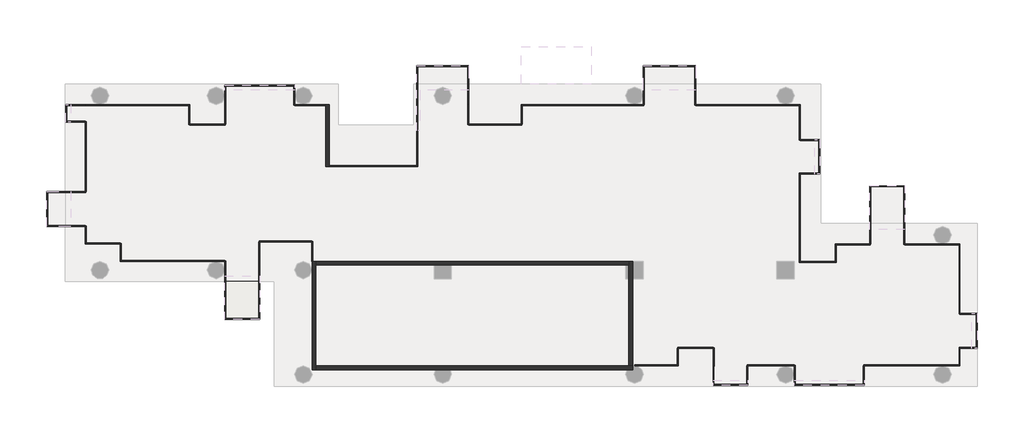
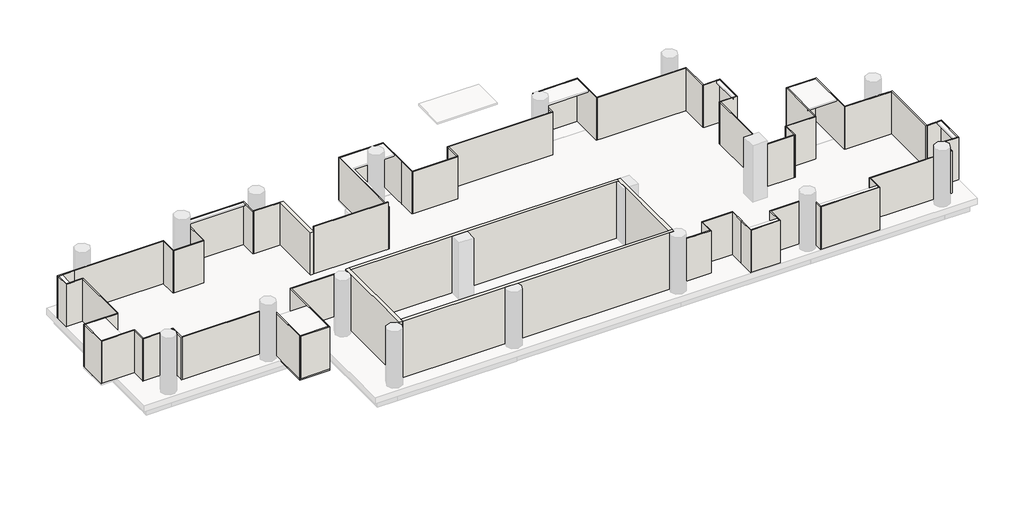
# One storey, part 1 of 2: 69 walls, 1 slab.
"""IFC4 building model written with IfcOpenShell, lengths in millimetres."""

from ifc_helpers import new_model, si_unit, frame, origin, place, context, project, spatial, polyline, outline, extrude, faceted_brep, element, save

model = new_model("IFC4")

# Units and contexts
model_context = context("Model", 3, world=origin())
ifc_project = project(units=[si_unit("LENGTHUNIT", "METRE", prefix="MILLI")], contexts=[model_context])

# Site, building, storey
site = spatial("IfcSite", under=ifc_project)
building = spatial("IfcBuilding", under=site)
storey = spatial("IfcBuildingStorey", under=building, Name="TW-L 17", Elevation=60399.9999686)

# Slab
placement = place(None, origin())
element("IfcSlab", 1, ObjectType="AJN-ARC-SLAB-10cm", at=placement, inside=storey, context=model_context, shape_type="SweptSolid", body=[
    extrude(outline(polyline([(110347.1743518, 27750.0), (108547.1743518, 27750.0), (108547.1743518, 29700.0), (110347.1743518, 29700.0), (110347.1743518, 27750.0)])), frame((0.0, 0.0, 60299.9999686), z_axis=(0.0, 0.0, 1.0), x_axis=(1.0, 0.0, 0.0)), (0.0, 0.0, 1.0), 100.0),
])

# Walls
element("IfcWall", 2, ObjectType="AJN-ARC-CONCRETE WALL-20cm", at=placement, inside=storey, context=model_context, shape_type="Brep", body=[
    faceted_brep([(113050.0, 30750.0, 63999.9999686), (113050.0, 30750.0, 60399.9999686), (113050.0, 25150.0, 60399.9999686), (113050.0, 25150.0, 63999.9999686), (113250.0, 30750.0, 60399.9999686), (113250.0, 30750.0, 63999.9999686), (113250.0, 30550.0, 63999.9999686), (113250.0, 25350.0, 63999.9999686), (113250.0, 25150.0, 63999.9999686), (113250.0, 25150.0, 60399.9999686), (113250.0, 25350.0, 60399.9999686), (113250.0, 30550.0, 60399.9999686), (113097.1743518, 30750.0, 60399.9999686)], [[[0, 1, 2, 3]], [[4, 5, 6, 7, 8, 9, 10, 11]], [[2, 1, 12, 4, 11, 10, 9]], [[0, 3, 8, 7, 6, 5]], [[3, 2, 9, 8]], [[0, 5, 4, 12, 1]]]),
])
element("IfcWall", 3, ObjectType="AJN-ARC-CONCRETE WALL-20cm", at=placement, inside=storey, context=model_context, shape_type="Brep", body=[
    faceted_brep([(113250.0, 25150.0, 60399.9999686), (119425.8342613, 25150.0, 60399.9999686), (120174.1657387, 25150.0, 60399.9999686), (129325.8342613, 25150.0, 60399.9999686), (129600.0, 25150.0, 60399.9999686), (129600.0, 25150.0, 63999.9999686), (129325.8342613, 25150.0, 63999.9999686), (120174.1657387, 25150.0, 63999.9999686), (119425.8342613, 25150.0, 63999.9999686), (113250.0, 25150.0, 63999.9999686), (113250.0, 25350.0, 60399.9999686), (113250.0, 25350.0, 63999.9999686), (129400.0, 25350.0, 63999.9999686), (129600.0, 25350.0, 63999.9999686), (129600.0, 25350.0, 60399.9999686), (129400.0, 25350.0, 60399.9999686), (129600.0, 25338.7482194, 60399.9999686), (129600.0, 25338.7482194, 63999.9999686)], [[[0, 1, 2, 3, 4, 5, 6, 7, 8, 9]], [[10, 11, 12, 13, 14, 15]], [[4, 3, 2, 1, 0, 10, 15, 14, 16]], [[9, 8, 7, 6, 5, 17, 13, 12, 11]], [[5, 4, 16, 14, 13, 17]], [[0, 9, 11, 10]]]),
])
element("IfcWall", 4, ObjectType="AJN-ARC-CONCRETE WALL-20cm", at=placement, inside=storey, context=model_context, shape_type="Brep", body=[
    faceted_brep([(129600.0, 25350.0, 60399.9999686), (129600.0, 29850.0, 60399.9999686), (129600.0, 30750.0, 60399.9999686), (129600.0, 30750.0, 63999.9999686), (129600.0, 29850.0, 63999.9999686), (129600.0, 25350.0, 63999.9999686), (129400.0, 25350.0, 60399.9999686), (129400.0, 25350.0, 63999.9999686), (129400.0, 29850.0, 63999.9999686), (129400.0, 30550.0, 63999.9999686), (129400.0, 30750.0, 63999.9999686), (129400.0, 30750.0, 60399.9999686), (129400.0, 30550.0, 60399.9999686), (129400.0, 29850.0, 60399.9999686)], [[[0, 1, 2, 3, 4, 5]], [[6, 7, 8, 9, 10, 11, 12, 13]], [[2, 1, 0, 6, 13, 12, 11]], [[5, 4, 3, 10, 9, 8, 7]], [[3, 2, 11, 10]], [[0, 5, 7, 6]]]),
])
element("IfcWall", 5, ObjectType="AJN-ARC-CONCRETE WALL-20cm", at=placement, inside=storey, context=model_context, shape_type="Brep", body=[
    faceted_brep([(129400.0, 30750.0, 60399.9999686), (113250.0, 30750.0, 60399.9999686), (113250.0, 30750.0, 63999.9999686), (129400.0, 30750.0, 63999.9999686), (129400.0, 30550.0, 60399.9999686), (129400.0, 30550.0, 63999.9999686), (129250.0, 30550.0, 63999.9999686), (120250.0, 30550.0, 63999.9999686), (119350.0, 30550.0, 63999.9999686), (113250.0, 30550.0, 63999.9999686), (113250.0, 30550.0, 60399.9999686), (119350.0, 30550.0, 60399.9999686), (120250.0, 30550.0, 60399.9999686), (129250.0, 30550.0, 60399.9999686)], [[[0, 1, 2, 3]], [[4, 5, 6, 7, 8, 9, 10, 11, 12, 13]], [[1, 0, 4, 13, 12, 11, 10]], [[3, 2, 9, 8, 7, 6, 5]], [[0, 3, 5, 4]], [[1, 10, 9, 2]]]),
])
element("IfcWall", 6, ObjectType="AJN-ARC-CONCRETE WALL-20cm", at=placement, inside=storey, context=model_context, shape_type="Brep", body=[
    faceted_brep([(113950.0, 35650.0, 60399.9999686), (113950.0, 38850.001152, 60399.9999686), (113950.0, 38850.001152, 63099.9999686), (113950.0, 35650.0, 63099.9999686), (113750.0, 35650.0, 60399.9999686), (113750.0, 35650.0, 63099.9999686), (113750.0, 38800.001024, 63099.9999686), (113750.0, 38850.001024, 63099.9999686), (113750.0, 38850.001024, 60399.9999686), (113750.0, 38800.001024, 60399.9999686)], [[[0, 1, 2, 3]], [[4, 5, 6, 7, 8, 9]], [[1, 0, 4, 9, 8]], [[3, 2, 7, 6, 5]], [[0, 3, 5, 4]], [[2, 1, 8, 7]]]),
])
element("IfcWall", 7, ObjectType="AJN-ARC-GLASS-50mm", at=placement, inside=storey, context=model_context, shape_type="SweptSolid", body=[
    extrude(outline(polyline([(112150.0, 38850.0), (113750.0, 38850.001024), (113750.0, 38800.001024), (112150.000032, 38800.0), (112150.0, 38850.0)])), frame((0.0, 0.0, 60399.9999686), z_axis=(0.0, 0.0, 1.0), x_axis=(1.0, 0.0, 0.0)), (0.0, 0.0, 1.0), 2700.0),
])
element("IfcWall", 8, ObjectType="AJN-ARC-GLASS-50mm", at=placement, inside=storey, context=model_context, shape_type="Brep", body=[
    faceted_brep([(112150.0, 38824.999984, 60399.9999686), (112150.0, 39850.0, 60399.9999686), (112150.0, 39850.0, 63099.9999686), (112150.0, 38824.999984, 63099.9999686), (112100.0, 38824.999984, 60399.9999686), (112100.0, 38824.999984, 63099.9999686), (112100.0, 39800.0, 63099.9999686), (112100.0, 39850.0, 63099.9999686), (112100.0, 39850.0, 60399.9999686), (112100.0, 39800.0, 60399.9999686)], [[[0, 1, 2, 3]], [[4, 5, 6, 7, 8, 9]], [[1, 0, 4, 9, 8]], [[3, 2, 7, 6, 5]], [[0, 3, 5, 4]], [[2, 1, 8, 7]]]),
])
element("IfcWall", 9, ObjectType="AJN-ARC-GLASS-50mm", at=placement, inside=storey, context=model_context, shape_type="Brep", body=[
    faceted_brep([(112100.0, 39850.0, 60399.9999686), (108550.0, 39850.0, 60399.9999686), (108550.0, 39850.0, 63099.9999686), (112100.0, 39850.0, 63099.9999686), (112100.0, 39800.0, 60399.9999686), (112100.0, 39800.0, 63099.9999686), (108600.0, 39800.0, 63099.9999686), (108550.0, 39800.0, 63099.9999686), (108550.0, 39800.0, 60399.9999686), (108600.0, 39800.0, 60399.9999686)], [[[0, 1, 2, 3]], [[4, 5, 6, 7, 8, 9]], [[1, 0, 4, 9, 8]], [[3, 2, 7, 6, 5]], [[2, 1, 8, 7]], [[0, 3, 5, 4]]]),
])
element("IfcWall", 10, ObjectType="AJN-ARC-GLASS-50mm", at=placement, inside=storey, context=model_context, shape_type="SweptSolid", body=[
    extrude(outline(polyline([(108550.0, 37850.0), (108550.0, 39800.0), (108600.0, 39800.0), (108600.0, 37850.0), (108550.0, 37850.0)])), frame((0.0, 0.0, 60399.9999686), z_axis=(0.0, 0.0, 1.0), x_axis=(1.0, 0.0, 0.0)), (0.0, 0.0, 1.0), 2700.0),
])
element("IfcWall", 11, ObjectType="AJN-ARC-GLASS-50mm", at=placement, inside=storey, context=model_context, shape_type="SweptSolid", body=[
    extrude(outline(polyline([(106750.0, 37850.0), (108575.0, 37850.0), (108575.0, 37800.0), (106750.0, 37800.0), (106750.0, 37850.0)])), frame((0.0, 0.0, 60399.9999686), z_axis=(0.0, 0.0, 1.0), x_axis=(1.0, 0.0, 0.0)), (0.0, 0.0, 1.0), 2700.0),
])
element("IfcWall", 12, ObjectType="AJN-ARC-GLASS-50mm", at=placement, inside=storey, context=model_context, shape_type="Brep", body=[
    faceted_brep([(106750.0, 37825.0, 60399.9999686), (106750.0, 38850.0001439, 60399.9999686), (106750.0, 38850.0001439, 63099.9999686), (106750.0, 37825.0, 63099.9999686), (106700.0, 37825.0, 60399.9999686), (106700.0, 37825.0, 63099.9999686), (106700.0, 38800.0001533, 63099.9999686), (106700.0, 38850.0001533, 63099.9999686), (106700.0, 38850.0001533, 60399.9999686), (106700.0, 38800.0001533, 60399.9999686)], [[[0, 1, 2, 3]], [[4, 5, 6, 7, 8, 9]], [[1, 0, 4, 9, 8]], [[3, 2, 7, 6, 5]], [[0, 3, 5, 4]], [[2, 1, 8, 7]]]),
])
element("IfcWall", 13, ObjectType="AJN-ARC-GLASS-50mm", at=placement, inside=storey, context=model_context, shape_type="SweptSolid", body=[
    extrude(outline(polyline([(101347.1743542, 38850.001152), (106700.0, 38850.0001533), (106700.0, 38800.0001533), (101347.1743449, 38800.001152), (101347.1743542, 38850.001152)])), frame((0.0, 0.0, 60399.9999686), z_axis=(0.0, 0.0, 1.0), x_axis=(1.0, 0.0, 0.0)), (0.0, 0.0, 1.0), 2700.0),
])
element("IfcWall", 14, ObjectType="AJN-ARC-GLASS-50mm", at=placement, inside=storey, context=model_context, shape_type="Brep", body=[
    faceted_brep([(101347.1743495, 38850.001152, 60399.9999686), (100347.1743518, 38850.001152, 60399.9999686), (100347.1743518, 38850.001152, 63099.9999686), (101347.1743495, 38850.001152, 63099.9999686), (101347.1743495, 38800.001152, 60399.9999686), (101347.1743495, 38800.001152, 63099.9999686), (100397.1743518, 38800.001152, 63099.9999686), (100347.1743518, 38800.001152, 63099.9999686), (100347.1743518, 38800.001152, 60399.9999686), (100397.1743518, 38800.001152, 60399.9999686)], [[[0, 1, 2, 3]], [[4, 5, 6, 7, 8, 9]], [[1, 0, 4, 9, 8]], [[3, 2, 7, 6, 5]], [[0, 3, 5, 4]], [[2, 1, 8, 7]]]),
])
element("IfcWall", 15, ObjectType="AJN-ARC-GLASS-50mm", at=placement, inside=storey, context=model_context, shape_type="Brep", body=[
    faceted_brep([(100347.1743518, 38800.001152, 60399.9999686), (100347.1743518, 37950.001152, 60399.9999686), (100347.1743518, 37950.001152, 63099.9999686), (100347.1743518, 38800.001152, 63099.9999686), (100397.1743518, 38800.001152, 60399.9999686), (100397.1743518, 38800.001152, 63099.9999686), (100397.1743518, 38000.001152, 63099.9999686), (100397.1743518, 37950.001152, 63099.9999686), (100397.1743518, 37950.001152, 60399.9999686), (100397.1743518, 38000.001152, 60399.9999686)], [[[0, 1, 2, 3]], [[4, 5, 6, 7, 8, 9]], [[1, 0, 4, 9, 8]], [[3, 2, 7, 6, 5]], [[2, 1, 8, 7]], [[0, 3, 5, 4]]]),
])
element("IfcWall", 16, ObjectType="AJN-ARC-GLASS-50mm", at=placement, inside=storey, context=model_context, shape_type="SweptSolid", body=[
    extrude(outline(polyline([(101347.1743518, 37950.001152), (100397.1743518, 37950.001152), (100397.1743518, 38000.001152), (101347.1743518, 38000.001152), (101347.1743518, 37950.001152)])), frame((0.0, 0.0, 60399.9999686), z_axis=(0.0, 0.0, 1.0), x_axis=(1.0, 0.0, 0.0)), (0.0, 0.0, 1.0), 2700.0),
])
element("IfcWall", 17, ObjectType="AJN-ARC-GLASS-50mm", at=placement, inside=storey, context=model_context, shape_type="SweptSolid", body=[
    extrude(outline(polyline([(101347.1743518, 34350.0), (101347.1743518, 37975.001152), (101397.1743518, 37975.001152), (101397.1743518, 34350.0), (101347.1743518, 34350.0)])), frame((0.0, 0.0, 60399.9999686), z_axis=(0.0, 0.0, 1.0), x_axis=(1.0, 0.0, 0.0)), (0.0, 0.0, 1.0), 2700.0),
])
element("IfcWall", 18, ObjectType="AJN-ARC-GLASS-50mm", at=placement, inside=storey, context=model_context, shape_type="Brep", body=[
    faceted_brep([(101372.1743518, 34350.0, 60399.9999686), (99347.1743518, 34350.0, 60399.9999686), (99347.1743518, 34350.0, 63099.9999686), (101372.1743518, 34350.0, 63099.9999686), (101372.1743518, 34300.0, 60399.9999686), (101372.1743518, 34300.0, 63099.9999686), (99397.1743518, 34300.0, 63099.9999686), (99347.1743518, 34300.0, 63099.9999686), (99347.1743518, 34300.0, 60399.9999686), (99397.1743518, 34300.0, 60399.9999686)], [[[0, 1, 2, 3]], [[4, 5, 6, 7, 8, 9]], [[1, 0, 4, 9, 8]], [[3, 2, 7, 6, 5]], [[0, 3, 5, 4]], [[2, 1, 8, 7]]]),
])
element("IfcWall", 19, ObjectType="AJN-ARC-GLASS-50mm", at=placement, inside=storey, context=model_context, shape_type="Brep", body=[
    faceted_brep([(99347.1743518, 34300.0, 60399.9999686), (99347.1743518, 32550.0, 60399.9999686), (99347.1743518, 32550.0, 63099.9999686), (99347.1743518, 34300.0, 63099.9999686), (99397.1743518, 34300.0, 60399.9999686), (99397.1743518, 34300.0, 63099.9999686), (99397.1743518, 32600.0, 63099.9999686), (99397.1743518, 32550.0, 63099.9999686), (99397.1743518, 32550.0, 60399.9999686), (99397.1743518, 32600.0, 60399.9999686)], [[[0, 1, 2, 3]], [[4, 5, 6, 7, 8, 9]], [[1, 0, 4, 9, 8]], [[3, 2, 7, 6, 5]], [[2, 1, 8, 7]], [[0, 3, 5, 4]]]),
])
element("IfcWall", 20, ObjectType="AJN-ARC-GLASS-50mm", at=placement, inside=storey, context=model_context, shape_type="SweptSolid", body=[
    extrude(outline(polyline([(101347.1743518, 32550.0), (99397.1743518, 32550.0), (99397.1743518, 32600.0), (101347.1743518, 32600.0), (101347.1743518, 32550.0)])), frame((0.0, 0.0, 60399.9999686), z_axis=(0.0, 0.0, 1.0), x_axis=(1.0, 0.0, 0.0)), (0.0, 0.0, 1.0), 2700.0),
])
element("IfcWall", 21, ObjectType="AJN-ARC-GLASS-50mm", at=placement, inside=storey, context=model_context, shape_type="Brep", body=[
    faceted_brep([(101347.1743518, 32575.0, 60399.9999686), (101347.1743518, 31650.6829713, 60399.9999686), (101347.1743518, 31650.6829713, 63099.9999686), (101347.1743518, 32575.0, 63099.9999686), (101397.1743518, 32575.0, 60399.9999686), (101397.1743518, 32575.0, 63099.9999686), (101397.1743518, 31700.6829713, 63099.9999686), (101397.1743518, 31650.6829713, 63099.9999686), (101397.1743518, 31650.6829713, 60399.9999686), (101397.1743518, 31700.6829713, 60399.9999686)], [[[0, 1, 2, 3]], [[4, 5, 6, 7, 8, 9]], [[1, 0, 4, 9, 8]], [[3, 2, 7, 6, 5]], [[0, 3, 5, 4]], [[2, 1, 8, 7]]]),
])
element("IfcWall", 22, ObjectType="AJN-ARC-GLASS-50mm", at=placement, inside=storey, context=model_context, shape_type="SweptSolid", body=[
    extrude(outline(polyline([(103147.5547922, 31650.6829713), (101397.1743518, 31650.6829713), (101397.1743518, 31700.6829713), (103147.5547922, 31700.6829713), (103147.5547922, 31650.6829713)])), frame((0.0, 0.0, 60399.9999686), z_axis=(0.0, 0.0, 1.0), x_axis=(1.0, 0.0, 0.0)), (0.0, 0.0, 1.0), 2700.0),
])
element("IfcWall", 23, ObjectType="AJN-ARC-GLASS-50mm", at=placement, inside=storey, context=model_context, shape_type="Brep", body=[
    faceted_brep([(103147.5547922, 31675.6829713, 60399.9999686), (103147.5547922, 30750.0, 60399.9999686), (103147.5547922, 30750.0, 63099.9999686), (103147.5547922, 31675.6829713, 63099.9999686), (103197.5547922, 31675.6829713, 60399.9999686), (103197.5547922, 31675.6829713, 63099.9999686), (103197.5547922, 30800.0, 63099.9999686), (103197.5547922, 30750.0, 63099.9999686), (103197.5547922, 30750.0, 60399.9999686), (103197.5547922, 30800.0, 60399.9999686)], [[[0, 1, 2, 3]], [[4, 5, 6, 7, 8, 9]], [[1, 0, 4, 9, 8]], [[3, 2, 7, 6, 5]], [[0, 3, 5, 4]], [[2, 1, 8, 7]]]),
])
element("IfcWall", 24, ObjectType="AJN-ARC-GLASS-50mm", at=placement, inside=storey, context=model_context, shape_type="SweptSolid", body=[
    extrude(outline(polyline([(108547.1743518, 30750.0), (103197.5547922, 30750.0), (103197.5547922, 30800.0), (108547.1743518, 30800.0), (108547.1743518, 30750.0)])), frame((0.0, 0.0, 60399.9999686), z_axis=(0.0, 0.0, 1.0), x_axis=(1.0, 0.0, 0.0)), (0.0, 0.0, 1.0), 2700.0),
])
element("IfcWall", 25, ObjectType="AJN-ARC-GLASS-50mm", at=placement, inside=storey, context=model_context, shape_type="Brep", body=[
    faceted_brep([(108547.1743518, 30775.0, 60399.9999686), (108547.1743518, 30350.3497671, 60399.9999686), (108547.1743518, 30249.6502329, 60399.9999686), (108547.1743518, 27750.0, 60399.9999686), (108547.1743518, 27750.0, 63099.9999686), (108547.1743518, 30249.6502329, 63099.9999686), (108547.1743518, 30350.3497671, 63099.9999686), (108547.1743518, 30775.0, 63099.9999686), (108597.1743518, 30775.0, 60399.9999686), (108597.1743518, 30775.0, 63099.9999686), (108597.1743518, 27800.0, 63099.9999686), (108597.1743518, 27750.0, 63099.9999686), (108597.1743518, 27750.0, 60399.9999686), (108597.1743518, 27800.0, 60399.9999686)], [[[0, 1, 2, 3, 4, 5, 6, 7]], [[8, 9, 10, 11, 12, 13]], [[3, 2, 1, 0, 8, 13, 12]], [[7, 6, 5, 4, 11, 10, 9]], [[0, 7, 9, 8]], [[4, 3, 12, 11]]]),
])
element("IfcWall", 26, ObjectType="AJN-ARC-GLASS-50mm", at=placement, inside=storey, context=model_context, shape_type="Brep", body=[
    faceted_brep([(108597.1743518, 27750.0, 60399.9999686), (110347.1743518, 27750.0, 60399.9999686), (110347.1743518, 27750.0, 63099.9999686), (108597.1743518, 27750.0, 63099.9999686), (108597.1743518, 27800.0, 60399.9999686), (108597.1743518, 27800.0, 63099.9999686), (110297.1743518, 27800.0, 63099.9999686), (110347.1743518, 27800.0, 63099.9999686), (110347.1743518, 27800.0, 60399.9999686), (110297.1743518, 27800.0, 60399.9999686)], [[[0, 1, 2, 3]], [[4, 5, 6, 7, 8, 9]], [[1, 0, 4, 9, 8]], [[3, 2, 7, 6, 5]], [[2, 1, 8, 7]], [[0, 3, 5, 4]]]),
])
element("IfcWall", 27, ObjectType="AJN-ARC-GLASS-50mm", at=placement, inside=storey, context=model_context, shape_type="SweptSolid", body=[
    extrude(outline(polyline([(110347.1743518, 31750.0), (110347.1743518, 27800.0), (110297.1743518, 27800.0), (110297.1743518, 31750.0), (110347.1743518, 31750.0)])), frame((0.0, 0.0, 60399.9999686), z_axis=(0.0, 0.0, 1.0), x_axis=(1.0, 0.0, 0.0)), (0.0, 0.0, 1.0), 2700.0),
])
element("IfcWall", 28, ObjectType="AJN-ARC-GLASS-50mm", at=placement, inside=storey, context=model_context, shape_type="SweptSolid", body=[
    extrude(outline(polyline([(113047.1743518, 31750.0), (110322.1743518, 31750.0), (110322.1743518, 31800.0), (113047.1743518, 31800.0), (113047.1743518, 31750.0)])), frame((0.0, 0.0, 60399.9999686), z_axis=(0.0, 0.0, 1.0), x_axis=(1.0, 0.0, 0.0)), (0.0, 0.0, 1.0), 2700.0),
])
element("IfcWall", 29, ObjectType="AJN-ARC-GLASS-50mm", at=placement, inside=storey, context=model_context, shape_type="Brep", body=[
    faceted_brep([(113047.1743518, 31775.0, 60399.9999686), (113047.1743518, 30750.0, 60399.9999686), (113047.1743518, 30750.0, 63099.9999686), (113047.1743518, 31775.0, 63099.9999686), (113097.1743518, 31775.0, 60399.9999686), (113097.1743518, 31775.0, 63099.9999686), (113097.1743518, 30750.0, 63099.9999686), (113097.1743518, 30750.0, 60399.9999686), (113050.0, 30750.0, 60399.9999686)], [[[0, 1, 2, 3]], [[4, 5, 6, 7]], [[1, 0, 4, 7, 8]], [[3, 2, 6, 5]], [[0, 3, 5, 4]], [[2, 1, 8, 7, 6]]]),
])
element("IfcWall", 30, ObjectType="AJN-ARC-GLASS-50mm", at=placement, inside=storey, context=model_context, shape_type="Brep", body=[
    faceted_brep([(138250.0, 30700.0, 60399.9999686), (138250.0, 30750.0, 60399.9999686), (138250.0, 35250.0, 60399.9999686), (138250.0, 35250.0, 63099.9999686), (138250.0, 30750.0, 63099.9999686), (138250.0, 30700.0, 63099.9999686), (138200.0, 30700.0, 60399.9999686), (138200.0, 30700.0, 63099.9999686), (138200.0, 35250.0, 63099.9999686), (138200.0, 35250.0, 60399.9999686)], [[[0, 1, 2, 3, 4, 5]], [[6, 7, 8, 9]], [[2, 1, 0, 6, 9]], [[5, 4, 3, 8, 7]], [[0, 5, 7, 6]], [[3, 2, 9, 8]]]),
])
element("IfcWall", 31, ObjectType="AJN-ARC-GLASS-50mm", at=placement, inside=storey, context=model_context, shape_type="Brep", body=[
    faceted_brep([(138200.0, 35250.0, 60399.9999686), (138250.0, 35250.0, 60399.9999686), (139250.0, 35250.0, 60399.9999686), (139250.0, 35250.0, 63099.9999686), (138250.0, 35250.0, 63099.9999686), (138200.0, 35250.0, 63099.9999686), (138200.0, 35300.0, 60399.9999686), (138200.0, 35300.0, 63099.9999686), (139200.0, 35300.0, 63099.9999686), (139250.0, 35300.0, 63099.9999686), (139250.0, 35300.0, 60399.9999686), (139200.0, 35300.0, 60399.9999686)], [[[0, 1, 2, 3, 4, 5]], [[6, 7, 8, 9, 10, 11]], [[2, 1, 0, 6, 11, 10]], [[5, 4, 3, 9, 8, 7]], [[3, 2, 10, 9]], [[0, 5, 7, 6]]]),
])
element("IfcWall", 32, ObjectType="AJN-ARC-GLASS-50mm", at=placement, inside=storey, context=model_context, shape_type="Brep", body=[
    faceted_brep([(139250.0, 35300.0, 60399.9999686), (139250.0, 37050.0, 60399.9999686), (139250.0, 37050.0, 63099.9999686), (139250.0, 35300.0, 63099.9999686), (139200.0, 35300.0, 60399.9999686), (139200.0, 35300.0, 63099.9999686), (139200.0, 37000.0, 63099.9999686), (139200.0, 37050.0, 63099.9999686), (139200.0, 37050.0, 60399.9999686), (139200.0, 37000.0, 60399.9999686)], [[[0, 1, 2, 3]], [[4, 5, 6, 7, 8, 9]], [[1, 0, 4, 9, 8]], [[3, 2, 7, 6, 5]], [[2, 1, 8, 7]], [[0, 3, 5, 4]]]),
])
element("IfcWall", 33, ObjectType="AJN-ARC-GLASS-50mm", at=placement, inside=storey, context=model_context, shape_type="SweptSolid", body=[
    extrude(outline(polyline([(138250.0, 37050.0), (139200.0, 37050.0), (139200.0, 37000.0), (138250.0, 37000.0), (138250.0, 37050.0)])), frame((0.0, 0.0, 60399.9999686), z_axis=(0.0, 0.0, 1.0), x_axis=(1.0, 0.0, 0.0)), (0.0, 0.0, 1.0), 2700.0),
])
element("IfcWall", 34, ObjectType="AJN-ARC-GLASS-50mm", at=placement, inside=storey, context=model_context, shape_type="Brep", body=[
    faceted_brep([(138250.0, 37025.0, 60399.9999686), (138250.0, 38850.0, 60399.9999686), (138250.0, 38850.0, 63099.9999686), (138250.0, 37025.0, 63099.9999686), (138200.0, 37025.0, 60399.9999686), (138200.0, 37025.0, 63099.9999686), (138200.0, 38800.0, 63099.9999686), (138200.0, 38850.0, 63099.9999686), (138200.0, 38850.0, 60399.9999686), (138200.0, 38800.0, 60399.9999686)], [[[0, 1, 2, 3]], [[4, 5, 6, 7, 8, 9]], [[1, 0, 4, 9, 8]], [[3, 2, 7, 6, 5]], [[0, 3, 5, 4]], [[2, 1, 8, 7]]]),
])
element("IfcWall", 35, ObjectType="AJN-ARC-GLASS-50mm", at=placement, inside=storey, context=model_context, shape_type="SweptSolid", body=[
    extrude(outline(polyline([(132850.0, 38850.0), (138200.0, 38850.0), (138200.0, 38800.0), (132850.0, 38800.0), (132850.0, 38850.0)])), frame((0.0, 0.0, 60399.9999686), z_axis=(0.0, 0.0, 1.0), x_axis=(1.0, 0.0, 0.0)), (0.0, 0.0, 1.0), 2700.0),
])
element("IfcWall", 36, ObjectType="AJN-ARC-GLASS-50mm", at=placement, inside=storey, context=model_context, shape_type="Brep", body=[
    faceted_brep([(132850.0, 38825.0, 60399.9999686), (132850.0, 40850.0, 60399.9999686), (132850.0, 40850.0, 63099.9999686), (132850.0, 38825.0, 63099.9999686), (132800.0, 38825.0, 60399.9999686), (132800.0, 38825.0, 63099.9999686), (132800.0, 40800.0, 63099.9999686), (132800.0, 40850.0, 63099.9999686), (132800.0, 40850.0, 60399.9999686), (132800.0, 40800.0, 60399.9999686)], [[[0, 1, 2, 3]], [[4, 5, 6, 7, 8, 9]], [[1, 0, 4, 9, 8]], [[3, 2, 7, 6, 5]], [[0, 3, 5, 4]], [[2, 1, 8, 7]]]),
])
element("IfcWall", 37, ObjectType="AJN-ARC-GLASS-50mm", at=placement, inside=storey, context=model_context, shape_type="Brep", body=[
    faceted_brep([(132800.0, 40850.0, 60399.9999686), (130150.0, 40850.0, 60399.9999686), (130150.0, 40850.0, 63099.9999686), (132800.0, 40850.0, 63099.9999686), (132800.0, 40800.0, 60399.9999686), (132800.0, 40800.0, 63099.9999686), (130200.0, 40800.0, 63099.9999686), (130150.0, 40800.0, 63099.9999686), (130150.0, 40800.0, 60399.9999686), (130200.0, 40800.0, 60399.9999686)], [[[0, 1, 2, 3]], [[4, 5, 6, 7, 8, 9]], [[1, 0, 4, 9, 8]], [[3, 2, 7, 6, 5]], [[2, 1, 8, 7]], [[0, 3, 5, 4]]]),
])
element("IfcWall", 38, ObjectType="AJN-ARC-GLASS-50mm", at=placement, inside=storey, context=model_context, shape_type="SweptSolid", body=[
    extrude(outline(polyline([(130150.0, 38850.0), (130150.0, 40800.0), (130200.0, 40800.0), (130200.0, 38850.0), (130150.0, 38850.0)])), frame((0.0, 0.0, 60399.9999686), z_axis=(0.0, 0.0, 1.0), x_axis=(1.0, 0.0, 0.0)), (0.0, 0.0, 1.0), 2700.0),
])
element("IfcWall", 39, ObjectType="AJN-ARC-GLASS-50mm", at=placement, inside=storey, context=model_context, shape_type="Brep", body=[
    faceted_brep([(130175.0, 38850.0, 60399.9999686), (123848.9950845, 38850.0, 60399.9999686), (123848.9950845, 38850.0, 63099.9999686), (130175.0, 38850.0, 63099.9999686), (130175.0, 38800.0, 60399.9999686), (130175.0, 38800.0, 63099.9999686), (123898.9950845, 38800.0, 63099.9999686), (123848.9950845, 38800.0, 63099.9999686), (123848.9950845, 38800.0, 60399.9999686), (123898.9950845, 38800.0, 60399.9999686)], [[[0, 1, 2, 3]], [[4, 5, 6, 7, 8, 9]], [[1, 0, 4, 9, 8]], [[3, 2, 7, 6, 5]], [[0, 3, 5, 4]], [[2, 1, 8, 7]]]),
])
element("IfcWall", 40, ObjectType="AJN-ARC-GLASS-50mm", at=placement, inside=storey, context=model_context, shape_type="SweptSolid", body=[
    extrude(outline(polyline([(123848.9950845, 37850.0), (123848.9950845, 38800.0), (123898.9950845, 38800.0), (123898.9950845, 37850.0), (123848.9950845, 37850.0)])), frame((0.0, 0.0, 60399.9999686), z_axis=(0.0, 0.0, 1.0), x_axis=(1.0, 0.0, 0.0)), (0.0, 0.0, 1.0), 2700.0),
])
element("IfcWall", 41, ObjectType="AJN-ARC-GLASS-50mm", at=placement, inside=storey, context=model_context, shape_type="SweptSolid", body=[
    extrude(outline(polyline([(121148.9950845, 37850.0), (123873.9950845, 37850.0), (123873.9950845, 37800.0), (121148.9950845, 37800.0), (121148.9950845, 37850.0)])), frame((0.0, 0.0, 60399.9999686), z_axis=(0.0, 0.0, 1.0), x_axis=(1.0, 0.0, 0.0)), (0.0, 0.0, 1.0), 2700.0),
])
element("IfcWall", 42, ObjectType="AJN-ARC-GLASS-50mm", at=placement, inside=storey, context=model_context, shape_type="SweptSolid", body=[
    extrude(outline(polyline([(121148.9950845, 38850.0), (121148.9950845, 37825.0), (121098.9950845, 37825.0), (121098.9950845, 38850.0), (121148.9950845, 38850.0)])), frame((0.0, 0.0, 60399.9999686), z_axis=(0.0, 0.0, 1.0), x_axis=(1.0, 0.0, 0.0)), (0.0, 0.0, 1.0), 2700.0),
])
element("IfcWall", 43, ObjectType="AJN-ARC-GLASS-50mm", at=placement, inside=storey, context=model_context, shape_type="Brep", body=[
    faceted_brep([(121150.0, 38850.0, 60399.9999686), (121150.0, 40850.0, 60399.9999686), (121150.0, 40850.0, 63099.9999686), (121150.0, 38850.0, 63099.9999686), (121100.0, 38850.0, 60399.9999686), (121100.0, 38850.0, 63099.9999686), (121100.0, 40800.0, 63099.9999686), (121100.0, 40850.0, 63099.9999686), (121100.0, 40850.0, 60399.9999686), (121100.0, 40800.0, 60399.9999686)], [[[0, 1, 2, 3]], [[4, 5, 6, 7, 8, 9]], [[1, 0, 4, 9, 8]], [[3, 2, 7, 6, 5]], [[0, 3, 5, 4]], [[2, 1, 8, 7]]]),
])
element("IfcWall", 44, ObjectType="AJN-ARC-GLASS-50mm", at=placement, inside=storey, context=model_context, shape_type="Brep", body=[
    faceted_brep([(121100.0, 40850.0, 60399.9999686), (118450.0, 40850.0, 60399.9999686), (118450.0, 40850.0, 63099.9999686), (121100.0, 40850.0, 63099.9999686), (121100.0, 40800.0, 60399.9999686), (121100.0, 40800.0, 63099.9999686), (118500.0, 40800.0, 63099.9999686), (118450.0, 40800.0, 63099.9999686), (118450.0, 40800.0, 60399.9999686), (118500.0, 40800.0, 60399.9999686)], [[[0, 1, 2, 3]], [[4, 5, 6, 7, 8, 9]], [[1, 0, 4, 9, 8]], [[3, 2, 7, 6, 5]], [[0, 3, 5, 4]], [[2, 1, 8, 7]]]),
])
element("IfcWall", 45, ObjectType="AJN-ARC-GLASS-50mm", at=placement, inside=storey, context=model_context, shape_type="Brep", body=[
    faceted_brep([(129714.068817, 25350.0, 60399.9999686), (131950.3417807, 25350.0, 60399.9999686), (131950.3417807, 25350.0, 63099.9999686), (129714.068817, 25350.0, 63099.9999686), (129714.068817, 25400.0, 60399.9999686), (129714.068817, 25400.0, 63099.9999686), (131900.3417807, 25400.0, 63099.9999686), (131950.3417807, 25400.0, 63099.9999686), (131950.3417807, 25400.0, 60399.9999686), (131900.3417807, 25400.0, 60399.9999686)], [[[0, 1, 2, 3]], [[4, 5, 6, 7, 8, 9]], [[1, 0, 4, 9, 8]], [[3, 2, 7, 6, 5]], [[0, 3, 5, 4]], [[2, 1, 8, 7]]]),
])
element("IfcWall", 46, ObjectType="AJN-ARC-GLASS-50mm", at=placement, inside=storey, context=model_context, shape_type="SweptSolid", body=[
    extrude(outline(polyline([(131950.3417807, 26250.0), (131950.3417807, 25400.0), (131900.3417807, 25400.0), (131900.3417807, 26250.0), (131950.3417807, 26250.0)])), frame((0.0, 0.0, 60399.9999686), z_axis=(0.0, 0.0, 1.0), x_axis=(1.0, 0.0, 0.0)), (0.0, 0.0, 1.0), 2700.0),
])
element("IfcWall", 47, ObjectType="AJN-ARC-GLASS-50mm", at=placement, inside=storey, context=model_context, shape_type="SweptSolid", body=[
    extrude(outline(polyline([(133754.0859039, 26250.0), (131925.3417807, 26250.0), (131925.3417807, 26300.0), (133754.0859039, 26300.0), (133754.0859039, 26250.0)])), frame((0.0, 0.0, 60399.9999686), z_axis=(0.0, 0.0, 1.0), x_axis=(1.0, 0.0, 0.0)), (0.0, 0.0, 1.0), 2700.0),
])
element("IfcWall", 48, ObjectType="AJN-ARC-GLASS-50mm", at=placement, inside=storey, context=model_context, shape_type="SweptSolid", body=[
    extrude(outline(polyline([(133754.0859039, 25325.0), (133754.0859039, 26275.0), (133804.0859039, 26275.0), (133804.0859039, 25325.0), (133754.0859039, 25325.0)])), frame((0.0, 0.0, 60399.9999686), z_axis=(0.0, 0.0, 1.0), x_axis=(1.0, 0.0, 0.0)), (0.0, 0.0, 1.0), 2700.0),
])
element("IfcWall", 49, ObjectType="AJN-ARC-GLASS-50mm", at=placement, inside=storey, context=model_context, shape_type="Brep", body=[
    faceted_brep([(133750.3417807, 25325.0, 60399.9999686), (133750.3417807, 24350.0, 60399.9999686), (133750.3417807, 24350.0, 63099.9999686), (133750.3417807, 25325.0, 63099.9999686), (133800.3417807, 25325.0, 60399.9999686), (133800.3417807, 25325.0, 63099.9999686), (133800.3417807, 24400.0, 63099.9999686), (133800.3417807, 24350.0, 63099.9999686), (133800.3417807, 24350.0, 60399.9999686), (133800.3417807, 24400.0, 60399.9999686)], [[[0, 1, 2, 3]], [[4, 5, 6, 7, 8, 9]], [[1, 0, 4, 9, 8]], [[3, 2, 7, 6, 5]], [[0, 3, 5, 4]], [[2, 1, 8, 7]]]),
])
element("IfcWall", 50, ObjectType="AJN-ARC-GLASS-50mm", at=placement, inside=storey, context=model_context, shape_type="Brep", body=[
    faceted_brep([(133800.3417807, 24350.0, 60399.9999686), (135550.3417807, 24350.0, 60399.9999686), (135550.3417807, 24350.0, 63099.9999686), (133800.3417807, 24350.0, 63099.9999686), (133800.3417807, 24400.0, 60399.9999686), (133800.3417807, 24400.0, 63099.9999686), (135500.3417807, 24400.0, 63099.9999686), (135550.3417807, 24400.0, 63099.9999686), (135550.3417807, 24400.0, 60399.9999686), (135500.3417807, 24400.0, 60399.9999686)], [[[0, 1, 2, 3]], [[4, 5, 6, 7, 8, 9]], [[1, 0, 4, 9, 8]], [[3, 2, 7, 6, 5]], [[2, 1, 8, 7]], [[0, 3, 5, 4]]]),
])
element("IfcWall", 51, ObjectType="AJN-ARC-GLASS-50mm", at=placement, inside=storey, context=model_context, shape_type="SweptSolid", body=[
    extrude(outline(polyline([(135550.3417807, 25350.0), (135550.3417807, 24400.0), (135500.3417807, 24400.0), (135500.3417807, 25350.0), (135550.3417807, 25350.0)])), frame((0.0, 0.0, 60399.9999686), z_axis=(0.0, 0.0, 1.0), x_axis=(1.0, 0.0, 0.0)), (0.0, 0.0, 1.0), 2700.0),
])
element("IfcWall", 52, ObjectType="AJN-ARC-GLASS-50mm", at=placement, inside=storey, context=model_context, shape_type="SweptSolid", body=[
    extrude(outline(polyline([(137950.1285476, 25350.0038004), (135525.3418203, 25349.9999604), (135525.3417411, 25399.9999604), (137950.1284684, 25400.0038004), (137950.1285476, 25350.0038004)])), frame((0.0, 0.0, 60399.9999686), z_axis=(0.0, 0.0, 1.0), x_axis=(1.0, 0.0, 0.0)), (0.0, 0.0, 1.0), 2700.0),
])
element("IfcWall", 53, ObjectType="AJN-ARC-GLASS-50mm", at=placement, inside=storey, context=model_context, shape_type="Brep", body=[
    faceted_brep([(137950.1285476, 25375.0038399, 60399.9999686), (137950.1285476, 24350.0038004, 60399.9999686), (137950.1285476, 24350.0038004, 63099.9999686), (137950.1285476, 25375.0038399, 63099.9999686), (138000.1285476, 25375.0038399, 60399.9999686), (138000.1285476, 25375.0038399, 63099.9999686), (138000.1285476, 24400.0038004, 63099.9999686), (138000.1285476, 24350.0038004, 63099.9999686), (138000.1285476, 24350.0038004, 60399.9999686), (138000.1285476, 24400.0038004, 60399.9999686)], [[[0, 1, 2, 3]], [[4, 5, 6, 7, 8, 9]], [[1, 0, 4, 9, 8]], [[3, 2, 7, 6, 5]], [[0, 3, 5, 4]], [[2, 1, 8, 7]]]),
])
element("IfcWall", 54, ObjectType="AJN-ARC-GLASS-50mm", at=placement, inside=storey, context=model_context, shape_type="Brep", body=[
    faceted_brep([(138000.1285476, 24350.0038004, 60399.9999686), (141550.1285476, 24350.0038004, 60399.9999686), (141550.1285476, 24350.0038004, 63099.9999686), (138000.1285476, 24350.0038004, 63099.9999686), (138000.1285476, 24400.0038004, 60399.9999686), (138000.1285476, 24400.0038004, 63099.9999686), (141500.1285476, 24400.0038004, 63099.9999686), (141550.1285476, 24400.0038004, 63099.9999686), (141550.1285476, 24400.0038004, 60399.9999686), (141500.1285476, 24400.0038004, 60399.9999686)], [[[0, 1, 2, 3]], [[4, 5, 6, 7, 8, 9]], [[1, 0, 4, 9, 8]], [[3, 2, 7, 6, 5]], [[2, 1, 8, 7]], [[0, 3, 5, 4]]]),
])
element("IfcWall", 55, ObjectType="AJN-ARC-GLASS-50mm", at=placement, inside=storey, context=model_context, shape_type="SweptSolid", body=[
    extrude(outline(polyline([(141550.1285476, 25350.0038004), (141550.1285476, 24400.0038004), (141500.1285476, 24400.0038004), (141500.1285476, 25350.0038004), (141550.1285476, 25350.0038004)])), frame((0.0, 0.0, 60399.9999686), z_axis=(0.0, 0.0, 1.0), x_axis=(1.0, 0.0, 0.0)), (0.0, 0.0, 1.0), 2700.0),
])
element("IfcWall", 56, ObjectType="AJN-ARC-GLASS-50mm", at=placement, inside=storey, context=model_context, shape_type="Brep", body=[
    faceted_brep([(141525.1285284, 25350.0038196, 60399.9999686), (146497.681474, 25350.0, 60399.9999686), (146497.681474, 25350.0, 63099.9999686), (141525.1285284, 25350.0038196, 63099.9999686), (141525.1285668, 25400.0038196, 60399.9999686), (141525.1285668, 25400.0038196, 63099.9999686), (146447.681474, 25400.0000384, 63099.9999686), (146497.681474, 25400.0, 63099.9999686), (146497.681474, 25400.0, 60399.9999686), (146447.681474, 25400.0000384, 60399.9999686)], [[[0, 1, 2, 3]], [[4, 5, 6, 7, 8, 9]], [[1, 0, 4, 9, 8]], [[3, 2, 7, 6, 5]], [[0, 3, 5, 4]], [[2, 1, 8, 7]]]),
])
element("IfcWall", 57, ObjectType="AJN-ARC-GLASS-50mm", at=placement, inside=storey, context=model_context, shape_type="SweptSolid", body=[
    extrude(outline(polyline([(146497.681474, 26248.9003385), (146497.681474, 25400.0), (146447.681474, 25400.0000384), (146447.681474, 26248.9003385), (146497.681474, 26248.9003385)])), frame((0.0, 0.0, 60399.9999686), z_axis=(0.0, 0.0, 1.0), x_axis=(1.0, 0.0, 0.0)), (0.0, 0.0, 1.0), 2700.0),
])
element("IfcWall", 58, ObjectType="AJN-ARC-GLASS-50mm", at=placement, inside=storey, context=model_context, shape_type="Brep", body=[
    faceted_brep([(146472.681474, 26248.9003385, 60399.9999686), (147397.681474, 26248.9003385, 60399.9999686), (147397.681474, 26248.9003385, 63099.9999686), (146472.681474, 26248.9003385, 63099.9999686), (146472.681474, 26298.9003385, 60399.9999686), (146472.681474, 26298.9003385, 63099.9999686), (147347.681474, 26298.9003385, 63099.9999686), (147397.681474, 26298.9003385, 63099.9999686), (147397.681474, 26298.9003385, 60399.9999686), (147347.681474, 26298.9003385, 60399.9999686)], [[[0, 1, 2, 3]], [[4, 5, 6, 7, 8, 9]], [[1, 0, 4, 9, 8]], [[3, 2, 7, 6, 5]], [[0, 3, 5, 4]], [[2, 1, 8, 7]]]),
])
element("IfcWall", 59, ObjectType="AJN-ARC-GLASS-50mm", at=placement, inside=storey, context=model_context, shape_type="Brep", body=[
    faceted_brep([(147397.681474, 26298.9003385, 60399.9999686), (147397.681474, 28048.9003385, 60399.9999686), (147397.681474, 28048.9003385, 63099.9999686), (147397.681474, 26298.9003385, 63099.9999686), (147347.681474, 26298.9003385, 60399.9999686), (147347.681474, 26298.9003385, 63099.9999686), (147347.681474, 27998.9003385, 63099.9999686), (147347.681474, 28048.9003385, 63099.9999686), (147347.681474, 28048.9003385, 60399.9999686), (147347.681474, 27998.9003385, 60399.9999686)], [[[0, 1, 2, 3]], [[4, 5, 6, 7, 8, 9]], [[1, 0, 4, 9, 8]], [[3, 2, 7, 6, 5]], [[2, 1, 8, 7]], [[0, 3, 5, 4]]]),
])
element("IfcWall", 60, ObjectType="AJN-ARC-GLASS-50mm", at=placement, inside=storey, context=model_context, shape_type="SweptSolid", body=[
    extrude(outline(polyline([(146497.681474, 28048.9003385), (147347.681474, 28048.9003385), (147347.681474, 27998.9003385), (146497.681474, 27998.9003385), (146497.681474, 28048.9003385)])), frame((0.0, 0.0, 60399.9999686), z_axis=(0.0, 0.0, 1.0), x_axis=(1.0, 0.0, 0.0)), (0.0, 0.0, 1.0), 2700.0),
])
element("IfcWall", 61, ObjectType="AJN-ARC-GLASS-50mm", at=placement, inside=storey, context=model_context, shape_type="Brep", body=[
    faceted_brep([(146497.681474, 28023.9003385, 60399.9999686), (146497.681474, 31651.6593424, 60399.9999686), (146497.681474, 31651.6593424, 63099.9999686), (146497.681474, 28023.9003385, 63099.9999686), (146447.681474, 28023.9003385, 60399.9999686), (146447.681474, 28023.9003385, 63099.9999686), (146447.681474, 31601.6593424, 63099.9999686), (146447.681474, 31651.6593424, 63099.9999686), (146447.681474, 31651.6593424, 60399.9999686), (146447.681474, 31601.6593424, 60399.9999686)], [[[0, 1, 2, 3]], [[4, 5, 6, 7, 8, 9]], [[1, 0, 4, 9, 8]], [[3, 2, 7, 6, 5]], [[0, 3, 5, 4]], [[2, 1, 8, 7]]]),
])
element("IfcWall", 62, ObjectType="AJN-ARC-GLASS-50mm", at=placement, inside=storey, context=model_context, shape_type="Brep", body=[
    faceted_brep([(146447.681474, 31651.6593424, 60399.9999686), (145638.6089983, 31651.6593424, 60399.9999686), (145561.3910017, 31651.6593424, 60399.9999686), (143650.0, 31651.6593424, 60399.9999686), (143650.0, 31651.6593424, 63099.9999686), (145561.3910017, 31651.6593424, 63099.9999686), (145638.6089983, 31651.6593424, 63099.9999686), (146447.681474, 31651.6593424, 63099.9999686), (146447.681474, 31601.6593424, 60399.9999686), (146447.681474, 31601.6593424, 63099.9999686), (143650.0, 31601.6593424, 63099.9999686), (143650.0, 31601.6593424, 60399.9999686)], [[[0, 1, 2, 3, 4, 5, 6, 7]], [[8, 9, 10, 11]], [[3, 2, 1, 0, 8, 11]], [[4, 3, 11, 10]], [[7, 6, 5, 4, 10, 9]], [[0, 7, 9, 8]]]),
])
element("IfcWall", 63, ObjectType="AJN-ARC-GLASS-50mm", at=placement, inside=storey, context=model_context, shape_type="Brep", body=[
    faceted_brep([(143650.0, 31626.6593424, 60399.9999686), (143650.0, 34651.6593424, 60399.9999686), (143650.0, 34651.6593424, 63099.9999686), (143650.0, 31626.6593424, 63099.9999686), (143600.0, 31626.6593424, 60399.9999686), (143600.0, 31626.6593424, 63099.9999686), (143600.0, 34601.6593424, 63099.9999686), (143600.0, 34651.6593424, 63099.9999686), (143600.0, 34651.6593424, 60399.9999686), (143600.0, 34601.6593424, 60399.9999686)], [[[0, 1, 2, 3]], [[4, 5, 6, 7, 8, 9]], [[1, 0, 4, 9, 8]], [[3, 2, 7, 6, 5]], [[0, 3, 5, 4]], [[2, 1, 8, 7]]]),
])
element("IfcWall", 64, ObjectType="AJN-ARC-GLASS-50mm", at=placement, inside=storey, context=model_context, shape_type="Brep", body=[
    faceted_brep([(143600.0, 34651.6593424, 60399.9999686), (141850.0, 34651.6593424, 60399.9999686), (141850.0, 34651.6593424, 63099.9999686), (143600.0, 34651.6593424, 63099.9999686), (143600.0, 34601.6593424, 60399.9999686), (143600.0, 34601.6593424, 63099.9999686), (141900.0, 34601.6593424, 63099.9999686), (141850.0, 34601.6593424, 63099.9999686), (141850.0, 34601.6593424, 60399.9999686), (141900.0, 34601.6593424, 60399.9999686)], [[[0, 1, 2, 3]], [[4, 5, 6, 7, 8, 9]], [[1, 0, 4, 9, 8]], [[3, 2, 7, 6, 5]], [[2, 1, 8, 7]], [[0, 3, 5, 4]]]),
])
element("IfcWall", 65, ObjectType="AJN-ARC-GLASS-50mm", at=placement, inside=storey, context=model_context, shape_type="SweptSolid", body=[
    extrude(outline(polyline([(141850.0, 31651.6593424), (141850.0, 34601.6593424), (141900.0, 34601.6593424), (141900.0, 31651.6593424), (141850.0, 31651.6593424)])), frame((0.0, 0.0, 60399.9999686), z_axis=(0.0, 0.0, 1.0), x_axis=(1.0, 0.0, 0.0)), (0.0, 0.0, 1.0), 2700.0),
])
element("IfcWall", 66, ObjectType="AJN-ARC-GLASS-50mm", at=placement, inside=storey, context=model_context, shape_type="Brep", body=[
    faceted_brep([(141875.0, 31651.6593424, 60399.9999686), (140050.0, 31651.6593424, 60399.9999686), (140050.0, 31651.6593424, 63099.9999686), (141875.0, 31651.6593424, 63099.9999686), (141875.0, 31601.6593424, 60399.9999686), (141875.0, 31601.6593424, 63099.9999686), (140100.0, 31601.6593424, 63099.9999686), (140050.0, 31601.6593424, 63099.9999686), (140050.0, 31601.6593424, 60399.9999686), (140100.0, 31601.6593424, 60399.9999686)], [[[0, 1, 2, 3]], [[4, 5, 6, 7, 8, 9]], [[1, 0, 4, 9, 8]], [[3, 2, 7, 6, 5]], [[0, 3, 5, 4]], [[2, 1, 8, 7]]]),
])
element("IfcWall", 67, ObjectType="AJN-ARC-GLASS-50mm", at=placement, inside=storey, context=model_context, shape_type="Brep", body=[
    faceted_brep([(140050.0, 31601.6593424, 60399.9999686), (140050.0, 30750.0, 60399.9999686), (140050.0, 30700.0, 60399.9999686), (140050.0, 30700.0, 63099.9999686), (140050.0, 30750.0, 63099.9999686), (140050.0, 31601.6593424, 63099.9999686), (140100.0, 31601.6593424, 60399.9999686), (140100.0, 31601.6593424, 63099.9999686), (140100.0, 30700.0, 63099.9999686), (140100.0, 30700.0, 60399.9999686)], [[[0, 1, 2, 3, 4, 5]], [[6, 7, 8, 9]], [[2, 1, 0, 6, 9]], [[5, 4, 3, 8, 7]], [[0, 5, 7, 6]], [[3, 2, 9, 8]]]),
])
element("IfcWall", 68, ObjectType="AJN-ARC-GLASS-50mm", at=placement, inside=storey, context=model_context, shape_type="SweptSolid", body=[
    extrude(outline(polyline([(138250.0, 30750.0), (140050.0, 30750.0), (140050.0, 30700.0), (138250.0, 30700.0), (138250.0, 30750.0)])), frame((0.0, 0.0, 60399.9999686), z_axis=(0.0, 0.0, 1.0), x_axis=(1.0, 0.0, 0.0)), (0.0, 0.0, 1.0), 2700.0),
])
element("IfcWall", 69, ObjectType="AJN-ARC-GLASS-50mm", at=placement, inside=storey, context=model_context, shape_type="SweptSolid", body=[
    extrude(outline(polyline([(118450.0, 35650.0), (118450.0, 40800.0), (118500.0, 40800.0), (118500.0, 35650.0), (118450.0, 35650.0)])), frame((0.0, 0.0, 60399.9999686), z_axis=(0.0, 0.0, 1.0), x_axis=(1.0, 0.0, 0.0)), (0.0, 0.0, 1.0), 2700.0),
])
element("IfcWall", 70, ObjectType="AJN-ARC-GLASS-50mm", at=placement, inside=storey, context=model_context, shape_type="SweptSolid", body=[
    extrude(outline(polyline([(118450.0, 35650.0), (113950.0, 35650.0), (113950.0, 35700.0), (118450.0, 35700.0), (118450.0, 35650.0)])), frame((0.0, 0.0, 60399.9999686), z_axis=(0.0, 0.0, 1.0), x_axis=(1.0, 0.0, 0.0)), (0.0, 0.0, 1.0), 3000.0),
])

save(model, "model.ifc")
